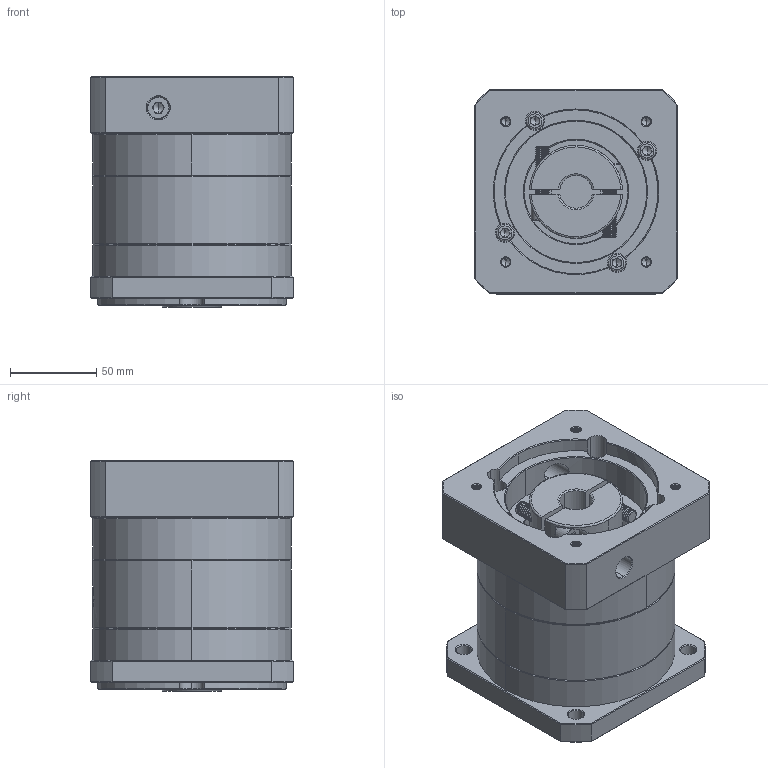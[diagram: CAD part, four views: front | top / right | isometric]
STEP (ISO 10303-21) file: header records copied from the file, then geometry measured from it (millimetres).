
FILE_DESCRIPTION (( 'STEP AP214' ), '1' );
FILE_NAME ('ZF120A-K25-L1-P2-19-95-115-M6.step', '2023-08-27T04:48:57', ( '' ), ( '' ), 'SwSTEP 2.0', 'SolidWorks 2016', '' );
FILE_SCHEMA (( 'AUTOMOTIVE_DESIGN' ));
Length unit declared in the file: millimetre
Products named in the file (1): ZF120A-K25-L1-P2-19-95-115-M6
Bounding box: 118 x 118 x 133.5 mm (x, y, z)
Volume: 1317702.9 mm3; surface area: 156600.3 mm2
Topology: 6 solids, 6 shells, 2179 faces, 5809 edges, 3731 vertices
Faces by surface type: plane 1027, bspline 430, cylinder 388, cone 334
Entity records: 117421 total; most frequent: CARTESIAN_POINT 44378, ORIENTED_EDGE 11562, DIRECTION 8415, EDGE_CURVE 5781, VERTEX_POINT 3731, LINE 3047, VECTOR 3047, AXIS2_PLACEMENT_3D 2684
